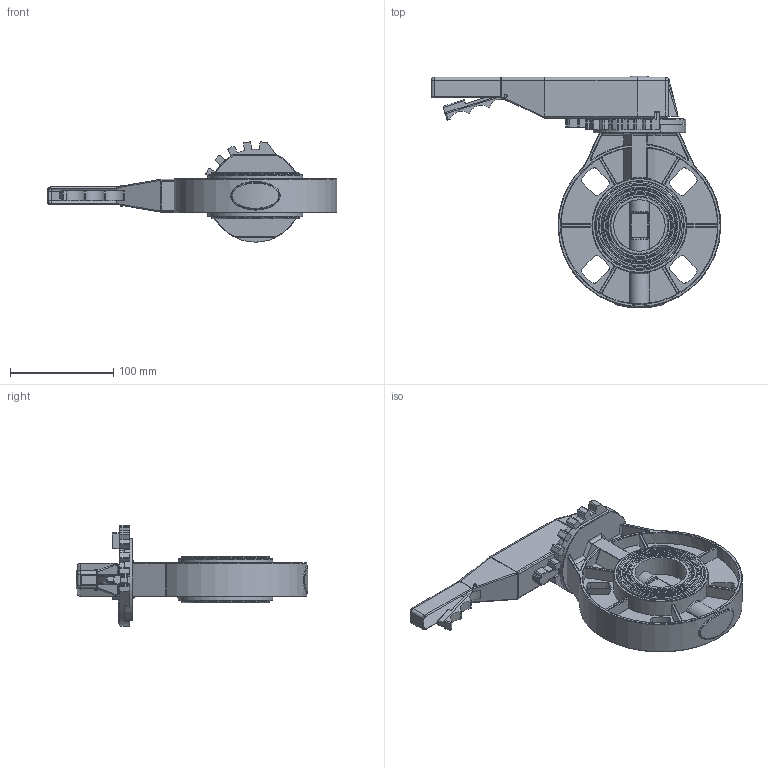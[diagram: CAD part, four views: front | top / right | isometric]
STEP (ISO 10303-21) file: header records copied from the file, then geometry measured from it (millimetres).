
FILE_DESCRIPTION(('STEP AP242'), '1');
FILE_NAME('WBV4242E-2W-Fb-H 青蜮铕 滂耜钼 DN.ru 捏50 畜10', '', ('UNSPECIFIED'), ('UNSPECIFIED'), 'C3D Converter', 'C3D Toolkit', '');
FILE_SCHEMA(('AP242_MANAGED_MODEL_BASED_3D_ENGINEERING_MIM_LF { 1 0 10303 442 1 1 4 }'));
Length unit declared in the file: millimetre
Products named in the file (1): WBV4242E-2W-Fb-H
Bounding box: 280.95 x 225.09 x 97.26 mm (x, y, z)
Surface area: 202797.6 mm2 (no closed solid volume)
Topology: 0 solids, 1 shells, 971 faces, 2514 edges, 1554 vertices
Faces by surface type: plane 353, cylinder 327, bspline 175, torus 90, sphere 24, cone 2
Full cylindrical faces by diameter (mm): 3 x3, 15 x1, 20 x2, 50 x2, 85.2 x1, 86 x1, 92 x2
Entity records: 60231 total; most frequent: CARTESIAN_POINT 30146, ORIENTED_EDGE 4852, DIRECTION 4254, EDGE_CURVE 2429, AXIS2_PLACEMENT_3D 1551, VERTEX_POINT 1536, LINE 1152, VECTOR 1152
